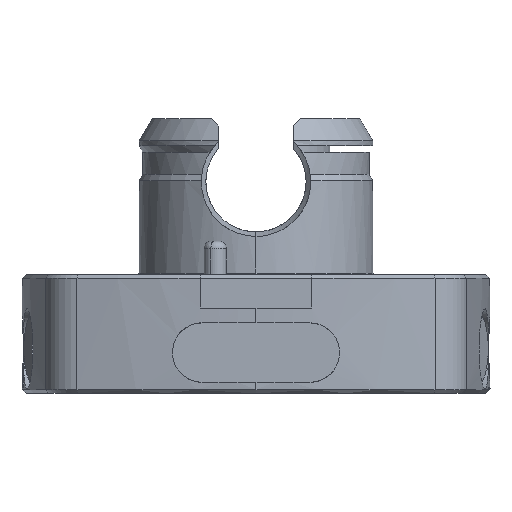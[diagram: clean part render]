
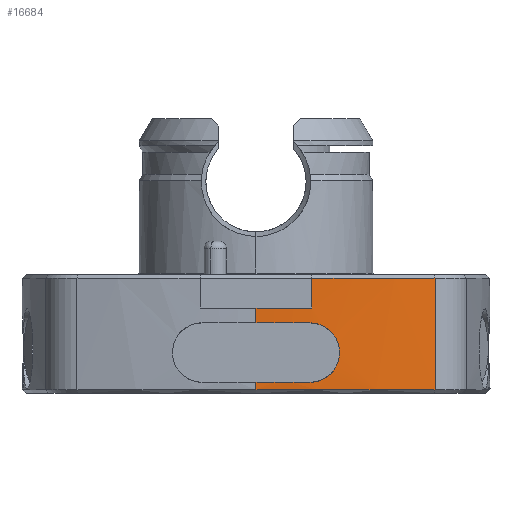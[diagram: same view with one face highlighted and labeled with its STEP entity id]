
A CAD part, left-side view. The second image highlights one B-rep face of the part: STEP entity #16684.
In plain terms, the highlighted cylindrical face has radius 94 mm (diameter 188 mm), a partial arc.
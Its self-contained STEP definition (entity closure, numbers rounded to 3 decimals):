
#142 = CARTESIAN_POINT ( 'NONE',  ( 62.5, 0., -46.788 ) ) ;
#582 = CIRCLE ( 'NONE', #11384, 94. ) ;
#617 = ORIENTED_EDGE ( 'NONE', *, *, #9585, .F. ) ;
#723 = EDGE_CURVE ( 'NONE', #16084, #6167, #8221, .T. ) ;
#1197 = CARTESIAN_POINT ( 'NONE',  ( -31.178, -7.774, -52.814 ) ) ;
#1206 = AXIS2_PLACEMENT_3D ( 'NONE', #142, #17192, #14046 ) ;
#1252 = CARTESIAN_POINT ( 'NONE',  ( -31.22, -7.25, -52.788 ) ) ;
#1261 = CARTESIAN_POINT ( 'NONE',  ( -30.849, -11.046, -58.076 ) ) ;
#1328 = CARTESIAN_POINT ( 'NONE',  ( -30.873, -10.844, -55.012 ) ) ;
#1395 = CARTESIAN_POINT ( 'NONE',  ( -30.827, -11.224, -57.312 ) ) ;
#1494 = ORIENTED_EDGE ( 'NONE', *, *, #2687, .T. ) ;
#2000 = DIRECTION ( 'NONE',  ( 0., 0., 1. ) ) ;
#2034 = VERTEX_POINT ( 'NONE', #14561 ) ;
#2164 = AXIS2_PLACEMENT_3D ( 'NONE', #7009, #2168, #19431 ) ;
#2168 = DIRECTION ( 'NONE',  ( 0., 0., 1. ) ) ;
#2639 = LINE ( 'NONE', #16257, #12916 ) ;
#2687 = EDGE_CURVE ( 'NONE', #8645, #6167, #8201, .T. ) ;
#2836 = CARTESIAN_POINT ( 'NONE',  ( -30.84, -11.121, -55.746 ) ) ;
#2993 = DIRECTION ( 'NONE',  ( 0., 0., -1. ) ) ;
#3071 = ORIENTED_EDGE ( 'NONE', *, *, #6534, .T. ) ;
#3721 = CARTESIAN_POINT ( 'NONE',  ( -31.5, 0., -50.788 ) ) ;
#3829 = EDGE_CURVE ( 'NONE', #14189, #4931, #9157, .T. ) ;
#4210 = VECTOR ( 'NONE', #16809, 1000. ) ;
#4271 = CARTESIAN_POINT ( 'NONE',  ( -30.92, -10.426, -54.342 ) ) ;
#4341 = CARTESIAN_POINT ( 'NONE',  ( -31.2, -7.504, -50.788 ) ) ;
#4403 = CARTESIAN_POINT ( 'NONE',  ( -31.066, -9.023, -60.383 ) ) ;
#4460 = CARTESIAN_POINT ( 'NONE',  ( -31., -9.685, -53.604 ) ) ;
#4931 = VERTEX_POINT ( 'NONE', #17170 ) ;
#5046 = CARTESIAN_POINT ( 'NONE',  ( 62.5, 0., -52.788 ) ) ;
#5530 = ORIENTED_EDGE ( 'NONE', *, *, #17919, .T. ) ;
#5833 = CARTESIAN_POINT ( 'NONE',  ( -30.824, -11.25, -56.523 ) ) ;
#5968 = CARTESIAN_POINT ( 'NONE',  ( -31.22, -7.25, -60.788 ) ) ;
#6030 = CARTESIAN_POINT ( 'NONE',  ( -31.066, -9.022, -53.192 ) ) ;
#6167 = VERTEX_POINT ( 'NONE', #16563 ) ;
#6232 = VERTEX_POINT ( 'NONE', #18079 ) ;
#6265 = EDGE_CURVE ( 'NONE', #2034, #11665, #15209, .T. ) ;
#6534 = EDGE_CURVE ( 'NONE', #6232, #18522, #582, .T. ) ;
#7009 = CARTESIAN_POINT ( 'NONE',  ( 62.5, 0., -61.788 ) ) ;
#7475 = CARTESIAN_POINT ( 'NONE',  ( -30.938, -10.265, -59.43 ) ) ;
#7543 = CARTESIAN_POINT ( 'NONE',  ( -31.112, -8.538, -52.992 ) ) ;
#7766 = CARTESIAN_POINT ( 'NONE',  ( -31.5, 0., -46.288 ) ) ;
#7831 = DIRECTION ( 'NONE',  ( -1., 0., 0. ) ) ;
#7889 = VERTEX_POINT ( 'NONE', #3721 ) ;
#8072 = DIRECTION ( 'NONE',  ( 0., 0., 1. ) ) ;
#8201 = CIRCLE ( 'NONE', #1206, 94. ) ;
#8221 = LINE ( 'NONE', #19860, #13830 ) ;
#8279 = CARTESIAN_POINT ( 'NONE',  ( 62.5, 0., -50.788 ) ) ;
#8307 = ORIENTED_EDGE ( 'NONE', *, *, #723, .F. ) ;
#8590 = CIRCLE ( 'NONE', #19963, 94. ) ;
#8645 = VERTEX_POINT ( 'NONE', #9964 ) ;
#8968 = CARTESIAN_POINT ( 'NONE',  ( -31.178, -7.778, -60.761 ) ) ;
#9042 = CARTESIAN_POINT ( 'NONE',  ( -30.872, -10.845, -58.56 ) ) ;
#9107 = CARTESIAN_POINT ( 'NONE',  ( -31.2, -7.514, -60.788 ) ) ;
#9157 = CIRCLE ( 'NONE', #2164, 94. ) ;
#9267 = AXIS2_PLACEMENT_3D ( 'NONE', #15131, #16735, #19792 ) ;
#9398 = EDGE_CURVE ( 'NONE', #7889, #16084, #8590, .T. ) ;
#9585 = EDGE_CURVE ( 'NONE', #8645, #4931, #13721, .T. ) ;
#9716 = CARTESIAN_POINT ( 'NONE',  ( -31.5, 0., -61.788 ) ) ;
#9964 = CARTESIAN_POINT ( 'NONE',  ( -28.359, -24.097, -46.788 ) ) ;
#10028 = DIRECTION ( 'NONE',  ( 0., 0., -1. ) ) ;
#10210 = CARTESIAN_POINT ( 'NONE',  ( -31.22, -7.25, -52.788 ) ) ;
#10388 = AXIS2_PLACEMENT_3D ( 'NONE', #18614, #2993, #7831 ) ;
#10481 = CARTESIAN_POINT ( 'NONE',  ( -31.112, -8.539, -60.583 ) ) ;
#10512 = CARTESIAN_POINT ( 'NONE',  ( -31.5, 0., -60.788 ) ) ;
#10552 = CARTESIAN_POINT ( 'NONE',  ( -30.887, -10.72, -58.795 ) ) ;
#10597 = ORIENTED_EDGE ( 'NONE', *, *, #3829, .T. ) ;
#10621 = CARTESIAN_POINT ( 'NONE',  ( -30.978, -9.891, -53.773 ) ) ;
#11384 = AXIS2_PLACEMENT_3D ( 'NONE', #5046, #8072, #19186 ) ;
#11665 = VERTEX_POINT ( 'NONE', #10512 ) ;
#11708 = LINE ( 'NONE', #7766, #18218 ) ;
#11711 = ORIENTED_EDGE ( 'NONE', *, *, #16701, .T. ) ;
#11797 = B_SPLINE_CURVE_WITH_KNOTS ( 'NONE', 3,
 ( #10210, #16836, #1197, #16959, #7543, #6030, #12142, #4460, #10621, #12072, #4271, #16773, #1328, #15304, #2836, #13877, #5833, #19828, #1395, #12210, #1261, #9042, #10552, #13753, #7475, #15166, #12274, #18258, #4403, #10481, #18390, #8968, #9107, #5968 ),
 .UNSPECIFIED., .F., .F.,
 ( 4, 2, 2, 2, 2, 2, 2, 2, 2, 2, 2, 2, 2, 2, 2, 2, 4 ),
 ( 0., 0.001, 0.002, 0.002, 0.003, 0.004, 0.005, 0.005, 0.006, 0.007, 0.008, 0.009, 0.009, 0.01, 0.011, 0.012, 0.013 ),
 .UNSPECIFIED. ) ;
#12072 = CARTESIAN_POINT ( 'NONE',  ( -30.939, -10.26, -54.141 ) ) ;
#12142 = CARTESIAN_POINT ( 'NONE',  ( -31.044, -9.251, -53.314 ) ) ;
#12210 = CARTESIAN_POINT ( 'NONE',  ( -30.84, -11.122, -57.826 ) ) ;
#12274 = CARTESIAN_POINT ( 'NONE',  ( -31., -9.689, -59.969 ) ) ;
#12664 = CYLINDRICAL_SURFACE ( 'NONE', #10388, 94. ) ;
#12873 = EDGE_CURVE ( 'NONE', #18522, #2034, #11797, .T. ) ;
#12916 = VECTOR ( 'NONE', #10028, 1000. ) ;
#13721 = LINE ( 'NONE', #15273, #4210 ) ;
#13753 = CARTESIAN_POINT ( 'NONE',  ( -30.92, -10.43, -59.228 ) ) ;
#13830 = VECTOR ( 'NONE', #18421, 1000. ) ;
#13877 = CARTESIAN_POINT ( 'NONE',  ( -30.827, -11.224, -56.263 ) ) ;
#14046 = DIRECTION ( 'NONE',  ( -1., 0., 0. ) ) ;
#14189 = VERTEX_POINT ( 'NONE', #9716 ) ;
#14561 = CARTESIAN_POINT ( 'NONE',  ( -31.22, -7.25, -60.788 ) ) ;
#15131 = CARTESIAN_POINT ( 'NONE',  ( 62.5, 0., -60.788 ) ) ;
#15166 = CARTESIAN_POINT ( 'NONE',  ( -30.978, -9.891, -59.803 ) ) ;
#15209 = CIRCLE ( 'NONE', #9267, 94. ) ;
#15273 = CARTESIAN_POINT ( 'NONE',  ( -28.359, -24.097, -46.288 ) ) ;
#15304 = CARTESIAN_POINT ( 'NONE',  ( -30.849, -11.044, -55.494 ) ) ;
#15391 = DIRECTION ( 'NONE',  ( 0., 0., -1. ) ) ;
#16084 = VERTEX_POINT ( 'NONE', #4341 ) ;
#16257 = CARTESIAN_POINT ( 'NONE',  ( -31.5, 0., -46.288 ) ) ;
#16279 = ORIENTED_EDGE ( 'NONE', *, *, #9398, .F. ) ;
#16563 = CARTESIAN_POINT ( 'NONE',  ( -31.2, -7.504, -46.788 ) ) ;
#16684 = ADVANCED_FACE ( 'NONE', ( #19899 ), #12664, .T. ) ;
#16701 = EDGE_CURVE ( 'NONE', #11665, #14189, #11708, .T. ) ;
#16735 = DIRECTION ( 'NONE',  ( 0., 0., -1. ) ) ;
#16773 = CARTESIAN_POINT ( 'NONE',  ( -30.887, -10.719, -54.779 ) ) ;
#16809 = DIRECTION ( 'NONE',  ( 0., 0., -1. ) ) ;
#16836 = CARTESIAN_POINT ( 'NONE',  ( -31.2, -7.514, -52.788 ) ) ;
#16959 = CARTESIAN_POINT ( 'NONE',  ( -31.135, -8.284, -52.915 ) ) ;
#17170 = CARTESIAN_POINT ( 'NONE',  ( -28.359, -24.097, -61.788 ) ) ;
#17192 = DIRECTION ( 'NONE',  ( 0., 0., -1. ) ) ;
#17577 = EDGE_LOOP ( 'NONE', ( #16279, #5530, #3071, #18766, #19580, #11711, #10597, #617, #1494, #8307 ) ) ;
#17919 = EDGE_CURVE ( 'NONE', #7889, #6232, #2639, .T. ) ;
#18079 = CARTESIAN_POINT ( 'NONE',  ( -31.5, 0., -52.788 ) ) ;
#18218 = VECTOR ( 'NONE', #15391, 1000. ) ;
#18258 = CARTESIAN_POINT ( 'NONE',  ( -31.043, -9.256, -60.258 ) ) ;
#18390 = CARTESIAN_POINT ( 'NONE',  ( -31.134, -8.29, -60.659 ) ) ;
#18421 = DIRECTION ( 'NONE',  ( 0., 0., 1. ) ) ;
#18522 = VERTEX_POINT ( 'NONE', #1252 ) ;
#18614 = CARTESIAN_POINT ( 'NONE',  ( 62.5, 0., -46.288 ) ) ;
#18766 = ORIENTED_EDGE ( 'NONE', *, *, #12873, .T. ) ;
#19186 = DIRECTION ( 'NONE',  ( 1., 0., 0. ) ) ;
#19261 = DIRECTION ( 'NONE',  ( 1., 0., 0. ) ) ;
#19431 = DIRECTION ( 'NONE',  ( -1., 0., 0. ) ) ;
#19580 = ORIENTED_EDGE ( 'NONE', *, *, #6265, .T. ) ;
#19792 = DIRECTION ( 'NONE',  ( -1., 0., 0. ) ) ;
#19828 = CARTESIAN_POINT ( 'NONE',  ( -30.824, -11.25, -57.046 ) ) ;
#19860 = CARTESIAN_POINT ( 'NONE',  ( -31.2, -7.504, -50.788 ) ) ;
#19899 = FACE_OUTER_BOUND ( 'NONE', #17577, .T. ) ;
#19963 = AXIS2_PLACEMENT_3D ( 'NONE', #8279, #2000, #19261 ) ;
